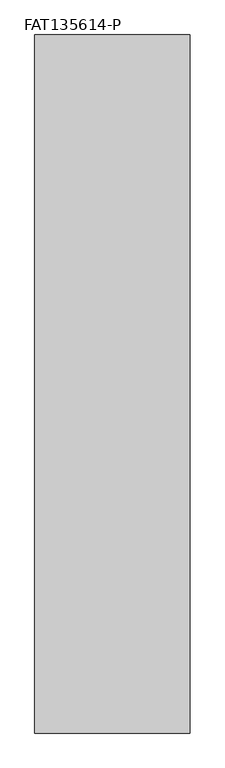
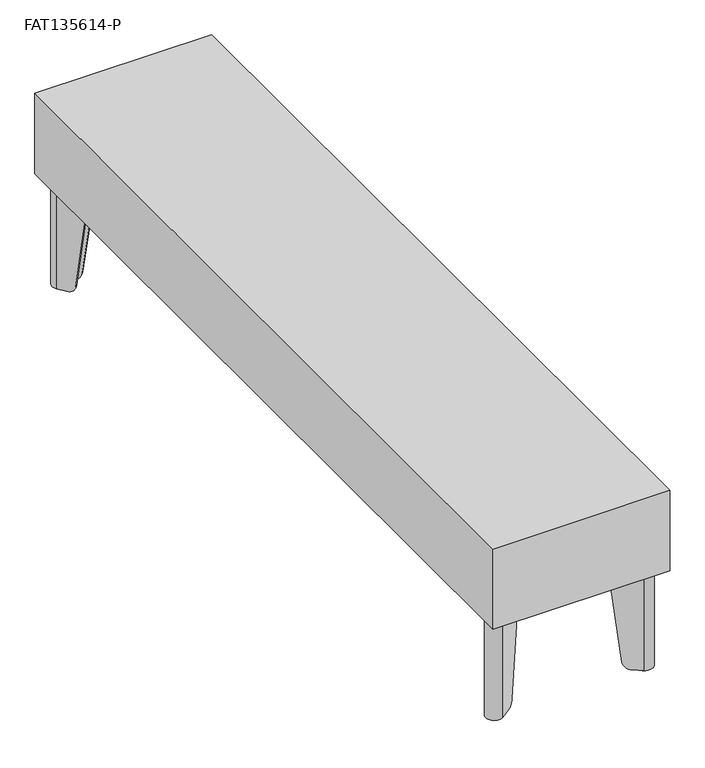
"""IFC4 building model written with IfcOpenShell, lengths in millimetres: furniture geometry, Stance_HC-Flora-Table_Straight : FAT135614-P."""

from ifc_helpers import new_model, si_unit, point, frame, frame_2d, origin, origin_with_axes, place, context, project, spatial, polyline, circle_curve, ellipse_curve, trimmed, segment, composite_curve, outline, extrude, source, transform, mapped, element, save
from ifc_brep_helpers import plane_surface, cylinder_surface, revolved_surface, advanced_brep


def fat135614_p_02217bb0(model_context):
    return source(origin(), model_context, "Body", "SolidModel", [
        advanced_brep(
        [(274.3401042, -102.8613619, 193.6877233), (306.2642107, -57.26919, 193.6877233), (285.6391871, -36.6441664, 193.6877233), (240.0470178, -68.568271, 193.6877233), (241.8906556, -71.2012484, 193.6877233), (287.4828248, -39.2771437, 193.6877233), (303.6312333, -55.4255523, 193.6877233), (271.7071268, -101.0177242, 193.6877233), (274.3401042, -102.8613619, 189.1419595), (303.6312333, -55.4255523, 3.1876992), (293.5105238, -69.8793673, 3.1876992), (284.3334277, -82.9855678, 17.1280233), (287.4828248, -39.2771437, 3.1876992), (259.9228092, -58.5749494, 17.1280233), (273.0290098, -49.3978533, 3.1876992), (240.0470178, -68.568271, 189.1419334), (285.6391871, -36.6441664, 3.1876992), (270.7211121, -47.0899556, 3.1876992), (257.6149115, -56.2670517, 17.1280233), (306.2642107, -57.26919, 3.1876992), (286.6413254, -85.2934656, 17.1280233), (295.8184215, -72.187265, 3.1876992)],
        [
            (0, 1),
            (1, 2, circle_curve(frame((294.1333442, -48.7750329, 193.6877233), z_axis=(0.0, 0.0, 1.0), x_axis=(-1.0, 0.0, 0.0)), 14.8090724)),
            (2, 3),
            (3, 4),
            (4, 5),
            (5, 6, circle_curve(frame((294.1333442, -48.7750329, 193.6877233), z_axis=(0.0, 0.0, -1.0), x_axis=(-1.0, 0.0, 0.0)), 11.5947965)),
            (6, 7),
            (7, 0),
            (7, 8),
            (8, 0),
            (6, 9),
            (9, 10),
            (10, 11, ellipse_curve(frame((293.5105238, -69.8793673, 19.0626992), z_axis=(-0.8191509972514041, 0.5735779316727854, 0.0), x_axis=(-0.5735779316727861, -0.8191509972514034, 0.0)), 16.1198923, 15.875)),
            (11, 7),
            (5, 12),
            (12, 9, circle_curve(frame((294.1333442, -48.7750329, 3.1876992), z_axis=(0.0, 0.0, -1.0), x_axis=(-1.0, 0.0, 0.0)), 11.5947965)),
            (4, 13),
            (13, 14, ellipse_curve(frame((273.0290098, -49.3978533, 19.0626992), z_axis=(0.5735779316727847, -0.8191509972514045, 0.0), x_axis=(0.8191509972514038, 0.5735779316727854, 0.0)), 16.1198923, 15.875)),
            (14, 12),
            (3, 15),
            (15, 4),
            (2, 16),
            (16, 17),
            (17, 18, ellipse_curve(frame((270.7211121, -47.0899556, 19.0626992), z_axis=(-0.5735779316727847, 0.8191509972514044, 0.0), x_axis=(0.8191509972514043, 0.573577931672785, 0.0)), 16.1198923, 15.875)),
            (18, 15),
            (1, 19),
            (19, 16, circle_curve(frame((294.1333442, -48.7750329, 3.1876992), z_axis=(0.0, 0.0, 1.0), x_axis=(-1.0, 0.0, 0.0)), 14.8090724)),
            (8, 20),
            (20, 21, ellipse_curve(frame((295.8184215, -72.187265, 19.0626992), z_axis=(0.8191509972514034, -0.5735779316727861, 0.0), x_axis=(-0.5735779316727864, -0.8191509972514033, 0.0)), 16.1198923, 15.875)),
            (21, 19),
            (18, 13),
            (11, 20),
            (21, 10),
            (14, 17),
        ],
        [
            plane_surface(frame((271.7071268, -101.0177242, 193.6877233), z_axis=(0.0, 0.0, 1.0000000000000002), x_axis=(-0.8191509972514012, 0.5735779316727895, 0.0))),
            plane_surface(frame((274.3401042, -102.8613619, 193.6877233), z_axis=(-0.5735779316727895, -0.8191509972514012, 0.0), x_axis=(0.0, 0.0, -1.0))),
            plane_surface(frame((271.7071268, -101.0177242, 193.6877233), z_axis=(-0.8191509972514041, 0.5735779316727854, 0.0), x_axis=(0.0, 0.0, -1.0))),
            revolved_surface(polyline([(282.53854770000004, -48.7750329, 3.1876992), (282.53854770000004, -48.7750329, 193.6877233)]), (294.1333442, -48.7750329, 0.0), (0.0, 0.0, -1.0)),
            plane_surface(frame((287.4828248, -39.2771437, 193.6877233), z_axis=(0.5735779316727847, -0.8191509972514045, 0.0), x_axis=(0.0, 0.0, -1.0))),
            plane_surface(frame((241.8906556, -71.2012484, 193.6877233), z_axis=(-0.8191509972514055, -0.5735779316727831, 0.0), x_axis=(0.0, 0.0, -1.0))),
            plane_surface(frame((240.0470178, -68.568271, 193.6877233), z_axis=(-0.5735779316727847, 0.8191509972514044, 0.0), x_axis=(0.0, 0.0, -1.0))),
            cylinder_surface(frame((294.1333442, -48.7750329, 0.0), z_axis=(0.0, 0.0, 1.0), x_axis=(-1.0, 0.0, 0.0)), 14.8090724),
            plane_surface(frame((306.2642107, -57.26919, 193.6877233), z_axis=(0.8191509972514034, -0.5735779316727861, 0.0), x_axis=(0.0, 0.0, -1.0))),
            plane_surface(frame((251.7311084, -50.3832485, 17.1280233), z_axis=(-0.7018361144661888, -0.7018361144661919, -0.12186934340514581), x_axis=(0.7071067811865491, -0.707106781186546, 0.0))),
            plane_surface(frame((284.2214639, -17.8928931, 3.1876992), z_axis=(0.0, 0.0, -1.0), x_axis=(0.707106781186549, -0.707106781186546, 0.0))),
            cylinder_surface(frame((303.6583998, -80.0272433, 19.0626992), z_axis=(0.7071067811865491, -0.707106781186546, 0.0), x_axis=(-0.707106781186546, -0.7071067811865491, 0.0)), 15.875),
        ],
        [
            (0, [[1, 2, 3, 4, 5, 6, 7, 8]]),
            (1, [[9, 10, -8]]),
            (2, [[11, 12, 13, 14, -7]]),
            (3, [[15, 16, -11, -6]]),
            (4, [[17, 18, 19, -15, -5]]),
            (5, [[20, 21, -4]]),
            (6, [[22, 23, 24, 25, -20, -3]]),
            (7, [[26, 27, -22, -2]]),
            (8, [[-10, 28, 29, 30, -26, -1]]),
            (9, [[-17, -21, -25, 31]]),
            (9, [[-28, -9, -14, 32]]),
            (10, [[-23, -27, -30, 33, -12, -16, -19, 34]]),
            (11, [[-13, -33, -29, -32]]),
            (11, [[-24, -34, -18, -31]]),
        ],
    ),
        extrude(outline(composite_curve([segment(trimmed(circle_curve(frame_2d((292.1, -50.8)), 11.1125), [point((303.2125, -50.8))], [point((280.9875, -50.8))], False, "CARTESIAN"), True, "CONTINUOUS"), segment(trimmed(circle_curve(frame_2d((292.1, -50.8)), 11.1125), [point((280.9875, -50.8))], [point((303.2125, -50.8))], False, "CARTESIAN"), True, "CONTINUOUS")], self_intersect=False)), origin_with_axes(), (0.0, 0.0, 1.0), 3.175),
        extrude(outline(composite_curve([segment(trimmed(circle_curve(frame_2d((295.4524523, -47.4559239)), 15.8749964), [point((294.3450687, -31.6195983))], [point((311.288778, -48.5633073))], False, "CARTESIAN"), True, "CONTINUOUS"), segment(polyline([(311.288778, -48.5633073), (304.2918062, -148.6247029), (274.4414324, -178.4750713), (190.4983323, -152.4100523), (164.4332978, -68.4669439), (194.2836699, -38.6165718), (294.3450687, -31.6195983)]), True, "CONTINUOUS")], self_intersect=False)), frame((0.0, 0.0, 193.6877233), z_axis=(0.0, 0.0, 1.0), x_axis=(1.0, 0.0, 0.0)), (0.0, 0.0, 1.0), 4.7751809),
        advanced_brep(
        [(274.3401042, -1344.9386381, 193.6877233), (271.7071268, -1346.7822758, 193.6877233), (303.6312333, -1392.3744477, 193.6877233), (287.4828248, -1408.5228563, 193.6877233), (241.8906556, -1376.5987516, 193.6877233), (240.0470178, -1379.231729, 193.6877233), (285.6391871, -1411.1558336, 193.6877233), (306.2642107, -1390.53081, 193.6877233), (274.3401042, -1344.9386381, 189.1419595), (284.3334277, -1364.8144322, 17.1280233), (293.5105238, -1377.9206327, 3.1876992), (303.6312333, -1392.3744477, 3.1876992), (287.4828248, -1408.5228563, 3.1876992), (273.0290098, -1398.4021467, 3.1876992), (259.9228092, -1389.2250506, 17.1280233), (240.0470178, -1379.231729, 189.1419334), (257.6149115, -1391.5329483, 17.1280233), (270.7211121, -1400.7100444, 3.1876992), (285.6391871, -1411.1558336, 3.1876992), (306.2642107, -1390.53081, 3.1876992), (295.8184215, -1375.612735, 3.1876992), (286.6413254, -1362.5065344, 17.1280233)],
        [
            (0, 1),
            (1, 2),
            (2, 3, circle_curve(frame((294.1333442, -1399.0249671, 193.6877233), z_axis=(0.0, 0.0, -1.0), x_axis=(-1.0, 0.0, 0.0)), 11.5947965)),
            (3, 4),
            (4, 5),
            (5, 6),
            (6, 7, circle_curve(frame((294.1333442, -1399.0249671, 193.6877233), z_axis=(0.0, 0.0, 1.0), x_axis=(-1.0, 0.0, 0.0)), 14.8090724)),
            (7, 0),
            (0, 8),
            (8, 1),
            (1, 9),
            (9, 10, ellipse_curve(frame((293.5105238, -1377.9206327, 19.0626992), z_axis=(-0.8191509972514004, -0.5735779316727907, 0.0), x_axis=(-0.5735779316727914, 0.8191509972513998, 0.0)), 16.1198923, 15.875)),
            (10, 11),
            (11, 2),
            (11, 12, circle_curve(frame((294.1333442, -1399.0249671, 3.1876992), z_axis=(0.0, 0.0, -1.0), x_axis=(-1.0, 0.0, 0.0)), 11.5947965)),
            (12, 3),
            (12, 13),
            (13, 14, ellipse_curve(frame((273.0290098, -1398.4021467, 19.0626992), z_axis=(0.5735779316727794, 0.8191509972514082, 0.0), x_axis=(0.8191509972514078, -0.5735779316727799, 0.0)), 16.1198923, 15.875)),
            (14, 4),
            (4, 15),
            (15, 5),
            (15, 16),
            (16, 17, ellipse_curve(frame((270.7211121, -1400.7100444, 19.0626992), z_axis=(-0.5735779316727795, -0.8191509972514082, 0.0), x_axis=(0.8191509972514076, -0.5735779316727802, 0.0)), 16.1198923, 15.875)),
            (17, 18),
            (18, 6),
            (18, 19, circle_curve(frame((294.1333442, -1399.0249671, 3.1876992), z_axis=(0.0, 0.0, 1.0), x_axis=(-1.0, 0.0, 0.0)), 14.8090724)),
            (19, 7),
            (19, 20),
            (20, 21, ellipse_curve(frame((295.8184215, -1375.612735, 19.0626992), z_axis=(0.8191509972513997, 0.5735779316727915, 0.0), x_axis=(-0.573577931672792, 0.8191509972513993, 0.0)), 16.1198923, 15.875)),
            (21, 8),
            (14, 16),
            (21, 9),
            (17, 13),
            (10, 20),
        ],
        [
            plane_surface(frame((271.7071268, -1346.7822758, 193.6877233), z_axis=(0.0, 0.0, 0.9999999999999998), x_axis=(-0.8191509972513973, -0.5735779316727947, 0.0))),
            plane_surface(frame((274.3401042, -1344.9386381, 193.6877233), z_axis=(-0.5735779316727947, 0.8191509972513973, 0.0), x_axis=(0.0, 0.0, -1.0))),
            plane_surface(frame((271.7071268, -1346.7822758, 193.6877233), z_axis=(-0.8191509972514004, -0.5735779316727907, 0.0), x_axis=(0.0, 0.0, -1.0))),
            revolved_surface(polyline([(282.53854770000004, -1399.0249671, 3.1876992), (282.53854770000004, -1399.0249671, 193.6877233)]), (294.1333442, -1399.0249671, 0.0), (0.0, 0.0, -1.0)),
            plane_surface(frame((287.4828248, -1408.5228563, 193.6877233), z_axis=(0.5735779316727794, 0.8191509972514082, 0.0), x_axis=(0.0, 0.0, -1.0))),
            plane_surface(frame((241.8906556, -1376.5987516, 193.6877233), z_axis=(-0.8191509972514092, 0.5735779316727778, 0.0), x_axis=(0.0, 0.0, -1.0))),
            plane_surface(frame((240.0470178, -1379.231729, 193.6877233), z_axis=(-0.5735779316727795, -0.8191509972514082, 0.0), x_axis=(0.0, 0.0, -1.0))),
            cylinder_surface(frame((294.1333442, -1399.0249671, 0.0), z_axis=(0.0, 0.0, 1.0), x_axis=(-1.0, 0.0, 0.0)), 14.8090724),
            plane_surface(frame((306.2642107, -1390.53081, 193.6877233), z_axis=(0.8191509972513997, 0.5735779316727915, 0.0), x_axis=(0.0, 0.0, -1.0))),
            plane_surface(frame((251.7311084, -1397.4167515, 17.1280233), z_axis=(-0.7018361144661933, 0.7018361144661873, -0.12186934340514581), x_axis=(0.7071067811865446, 0.7071067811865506, 0.0))),
            plane_surface(frame((284.2214639, -1429.9071069, 3.1876992), z_axis=(0.0, 0.0, -1.0), x_axis=(0.7071067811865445, 0.7071067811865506, 0.0))),
            cylinder_surface(frame((303.6583998, -1367.7727567, 19.0626992), z_axis=(0.7071067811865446, 0.7071067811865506, 0.0), x_axis=(-0.7071067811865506, 0.7071067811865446, 0.0)), 15.875),
        ],
        [
            (0, [[1, 2, 3, 4, 5, 6, 7, 8]]),
            (1, [[-1, 9, 10]]),
            (2, [[-2, 11, 12, 13, 14]]),
            (3, [[-3, -14, 15, 16]]),
            (4, [[-4, -16, 17, 18, 19]]),
            (5, [[-5, 20, 21]]),
            (6, [[-6, -21, 22, 23, 24, 25]]),
            (7, [[-7, -25, 26, 27]]),
            (8, [[-8, -27, 28, 29, 30, -9]]),
            (9, [[31, -22, -20, -19]]),
            (9, [[32, -11, -10, -30]]),
            (10, [[33, -17, -15, -13, 34, -28, -26, -24]]),
            (11, [[-31, -18, -33, -23]]),
            (11, [[-32, -29, -34, -12]]),
        ],
    ),
        extrude(outline(composite_curve([segment(trimmed(circle_curve(frame_2d((292.1, -1397.0)), 11.1125), [point((303.2125, -1397.0))], [point((280.9875, -1397.0))], False, "CARTESIAN"), True, "CONTINUOUS"), segment(trimmed(circle_curve(frame_2d((292.1, -1397.0)), 11.1125), [point((280.9875, -1397.0))], [point((303.2125, -1397.0))], False, "CARTESIAN"), True, "CONTINUOUS")], self_intersect=False)), origin_with_axes(), (0.0, 0.0, 1.0), 3.175),
        extrude(outline(composite_curve([segment(polyline([(294.3450687, -1416.1804017), (194.2836699, -1409.1834282), (164.4332978, -1379.3330561), (190.4983323, -1295.3899477), (274.4414324, -1269.3249287), (304.2918062, -1299.1752971), (311.288778, -1399.2366927)]), True, "CONTINUOUS"), segment(trimmed(circle_curve(frame_2d((295.4524523, -1400.3440761)), 15.8749964), [point((311.288778, -1399.2366927))], [point((294.3450687, -1416.1804017))], False, "CARTESIAN"), True, "CONTINUOUS")], self_intersect=False)), frame((0.0, 0.0, 193.6877233), z_axis=(0.0, 0.0, 1.0), x_axis=(1.0, 0.0, 0.0)), (0.0, 0.0, 1.0), 4.7751809),
        advanced_brep(
        [(43.1598958, -1344.9386381, 193.6877233), (11.2357893, -1390.53081, 193.6877233), (31.8608129, -1411.1558336, 193.6877233), (77.4529822, -1379.231729, 193.6877233), (75.6093444, -1376.5987516, 193.6877233), (30.0171752, -1408.5228563, 193.6877233), (13.8687667, -1392.3744477, 193.6877233), (45.7928732, -1346.7822758, 193.6877233), (43.1598958, -1344.9386381, 189.1419595), (13.8687667, -1392.3744477, 3.1876992), (23.9894762, -1377.9206327, 3.1876992), (33.1665723, -1364.8144322, 17.1280233), (30.0171752, -1408.5228563, 3.1876992), (57.5771908, -1389.2250506, 17.1280233), (44.4709902, -1398.4021467, 3.1876992), (77.4529822, -1379.231729, 189.1419334), (31.8608129, -1411.1558336, 3.1876992), (46.7788879, -1400.7100444, 3.1876992), (59.8850885, -1391.5329483, 17.1280233), (11.2357893, -1390.53081, 3.1876992), (30.8586746, -1362.5065344, 17.1280233), (21.6815785, -1375.612735, 3.1876992)],
        [
            (0, 1),
            (1, 2, circle_curve(frame((23.3666558, -1399.0249671, 193.6877233), z_axis=(0.0, 0.0, 1.0), x_axis=(1.0, 0.0, 0.0)), 14.8090724)),
            (2, 3),
            (3, 4),
            (4, 5),
            (5, 6, circle_curve(frame((23.3666558, -1399.0249671, 193.6877233), z_axis=(0.0, 0.0, -1.0), x_axis=(1.0, 0.0, 0.0)), 11.5947965)),
            (6, 7),
            (7, 0),
            (7, 8),
            (8, 0),
            (6, 9),
            (9, 10),
            (10, 11, ellipse_curve(frame((23.9894762, -1377.9206327, 19.0626992), z_axis=(0.8191509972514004, -0.5735779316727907, 0.0), x_axis=(0.5735779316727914, 0.8191509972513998, 0.0)), 16.1198923, 15.875)),
            (11, 7),
            (5, 12),
            (12, 9, circle_curve(frame((23.3666558, -1399.0249671, 3.1876992), z_axis=(0.0, 0.0, -1.0), x_axis=(1.0, 0.0, 0.0)), 11.5947965)),
            (4, 13),
            (13, 14, ellipse_curve(frame((44.4709902, -1398.4021467, 19.0626992), z_axis=(-0.5735779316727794, 0.8191509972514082, 0.0), x_axis=(-0.8191509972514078, -0.5735779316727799, 0.0)), 16.1198923, 15.875)),
            (14, 12),
            (3, 15),
            (15, 4),
            (2, 16),
            (16, 17),
            (17, 18, ellipse_curve(frame((46.7788879, -1400.7100444, 19.0626992), z_axis=(0.5735779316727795, -0.8191509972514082, 0.0), x_axis=(-0.8191509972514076, -0.5735779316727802, 0.0)), 16.1198923, 15.875)),
            (18, 15),
            (1, 19),
            (19, 16, circle_curve(frame((23.3666558, -1399.0249671, 3.1876992), z_axis=(0.0, 0.0, 1.0), x_axis=(1.0, 0.0, 0.0)), 14.8090724)),
            (8, 20),
            (20, 21, ellipse_curve(frame((21.6815785, -1375.612735, 19.0626992), z_axis=(-0.8191509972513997, 0.5735779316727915, 0.0), x_axis=(0.573577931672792, 0.8191509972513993, 0.0)), 16.1198923, 15.875)),
            (21, 19),
            (18, 13),
            (11, 20),
            (21, 10),
            (14, 17),
        ],
        [
            plane_surface(frame((45.7928732, -1346.7822758, 193.6877233), z_axis=(0.0, 0.0, 0.9999999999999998), x_axis=(0.8191509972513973, -0.5735779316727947, 0.0))),
            plane_surface(frame((43.1598958, -1344.9386381, 193.6877233), z_axis=(0.5735779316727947, 0.8191509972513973, 0.0), x_axis=(0.0, 0.0, -1.0))),
            plane_surface(frame((45.7928732, -1346.7822758, 193.6877233), z_axis=(0.8191509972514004, -0.5735779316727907, 0.0), x_axis=(0.0, 0.0, -1.0))),
            revolved_surface(polyline([(34.9614523, -1399.0249671, 3.1876992), (34.9614523, -1399.0249671, 193.6877233)]), (23.3666558, -1399.0249671, 0.0), (0.0, 0.0, -1.0)),
            plane_surface(frame((30.0171752, -1408.5228563, 193.6877233), z_axis=(-0.5735779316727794, 0.8191509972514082, 0.0), x_axis=(0.0, 0.0, -1.0))),
            plane_surface(frame((75.6093444, -1376.5987516, 193.6877233), z_axis=(0.8191509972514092, 0.5735779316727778, 0.0), x_axis=(0.0, 0.0, -1.0))),
            plane_surface(frame((77.4529822, -1379.231729, 193.6877233), z_axis=(0.5735779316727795, -0.8191509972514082, 0.0), x_axis=(0.0, 0.0, -1.0))),
            cylinder_surface(frame((23.3666558, -1399.0249671, 0.0), z_axis=(0.0, 0.0, 1.0), x_axis=(1.0, 0.0, 0.0)), 14.8090724),
            plane_surface(frame((11.2357893, -1390.53081, 193.6877233), z_axis=(-0.8191509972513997, 0.5735779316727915, 0.0), x_axis=(0.0, 0.0, -1.0))),
            plane_surface(frame((65.7688916, -1397.4167515, 17.1280233), z_axis=(0.7018361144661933, 0.7018361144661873, -0.12186934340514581), x_axis=(-0.7071067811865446, 0.7071067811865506, 0.0))),
            plane_surface(frame((33.2785361, -1429.9071069, 3.1876992), z_axis=(0.0, 0.0, -1.0), x_axis=(-0.7071067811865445, 0.7071067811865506, 0.0))),
            cylinder_surface(frame((13.8416002, -1367.7727567, 19.0626992), z_axis=(-0.7071067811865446, 0.7071067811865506, 0.0), x_axis=(0.7071067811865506, 0.7071067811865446, 0.0)), 15.875),
        ],
        [
            (0, [[1, 2, 3, 4, 5, 6, 7, 8]]),
            (1, [[9, 10, -8]]),
            (2, [[11, 12, 13, 14, -7]]),
            (3, [[15, 16, -11, -6]]),
            (4, [[17, 18, 19, -15, -5]]),
            (5, [[20, 21, -4]]),
            (6, [[22, 23, 24, 25, -20, -3]]),
            (7, [[26, 27, -22, -2]]),
            (8, [[-10, 28, 29, 30, -26, -1]]),
            (9, [[-17, -21, -25, 31]]),
            (9, [[-28, -9, -14, 32]]),
            (10, [[-23, -27, -30, 33, -12, -16, -19, 34]]),
            (11, [[-13, -33, -29, -32]]),
            (11, [[-24, -34, -18, -31]]),
        ],
    ),
        extrude(outline(composite_curve([segment(trimmed(circle_curve(frame_2d((25.4, -1397.0)), 11.1125), [point((14.2875, -1397.0))], [point((36.5125, -1397.0))], False, "CARTESIAN"), True, "CONTINUOUS"), segment(trimmed(circle_curve(frame_2d((25.4, -1397.0)), 11.1125), [point((36.5125, -1397.0))], [point((14.2875, -1397.0))], False, "CARTESIAN"), True, "CONTINUOUS")], self_intersect=False)), origin_with_axes(), (0.0, 0.0, 1.0), 3.175),
        extrude(outline(composite_curve([segment(trimmed(circle_curve(frame_2d((22.0475477, -1400.3440761)), 15.8749964), [point((23.1549313, -1416.1804017))], [point((6.211222, -1399.2366927))], False, "CARTESIAN"), True, "CONTINUOUS"), segment(polyline([(6.211222, -1399.2366927), (13.2081938, -1299.1752971), (43.0585676, -1269.3249287), (127.0016677, -1295.3899477), (153.0667022, -1379.3330561), (123.2163301, -1409.1834282), (23.1549313, -1416.1804017)]), True, "CONTINUOUS")], self_intersect=False)), frame((0.0, 0.0, 193.6877233), z_axis=(0.0, 0.0, 1.0), x_axis=(1.0, 0.0, 0.0)), (0.0, 0.0, 1.0), 4.7751809),
        advanced_brep(
        [(43.1598958, -102.8613619, 193.6877233), (45.7928732, -101.0177242, 193.6877233), (13.8687667, -55.4255523, 193.6877233), (30.0171752, -39.2771437, 193.6877233), (75.6093444, -71.2012484, 193.6877233), (77.4529822, -68.568271, 193.6877233), (31.8608129, -36.6441664, 193.6877233), (11.2357893, -57.26919, 193.6877233), (43.1598958, -102.8613619, 189.1419595), (33.1665723, -82.9855678, 17.1280233), (23.9894762, -69.8793673, 3.1876992), (13.8687667, -55.4255523, 3.1876992), (30.0171752, -39.2771437, 3.1876992), (44.4709902, -49.3978533, 3.1876992), (57.5771908, -58.5749494, 17.1280233), (77.4529822, -68.568271, 189.1419334), (59.8850885, -56.2670517, 17.1280233), (46.7788879, -47.0899556, 3.1876992), (31.8608129, -36.6441664, 3.1876992), (11.2357893, -57.26919, 3.1876992), (21.6815785, -72.187265, 3.1876992), (30.8586746, -85.2934656, 17.1280233)],
        [
            (0, 1),
            (1, 2),
            (2, 3, circle_curve(frame((23.3666558, -48.7750329, 193.6877233), z_axis=(0.0, 0.0, -1.0), x_axis=(1.0, 0.0, 0.0)), 11.5947965)),
            (3, 4),
            (4, 5),
            (5, 6),
            (6, 7, circle_curve(frame((23.3666558, -48.7750329, 193.6877233), z_axis=(0.0, 0.0, 1.0), x_axis=(1.0, 0.0, 0.0)), 14.8090724)),
            (7, 0),
            (0, 8),
            (8, 1),
            (1, 9),
            (9, 10, ellipse_curve(frame((23.9894762, -69.8793673, 19.0626992), z_axis=(0.8191509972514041, 0.5735779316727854, 0.0), x_axis=(0.5735779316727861, -0.8191509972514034, 0.0)), 16.1198923, 15.875)),
            (10, 11),
            (11, 2),
            (11, 12, circle_curve(frame((23.3666558, -48.7750329, 3.1876992), z_axis=(0.0, 0.0, -1.0), x_axis=(1.0, 0.0, 0.0)), 11.5947965)),
            (12, 3),
            (12, 13),
            (13, 14, ellipse_curve(frame((44.4709902, -49.3978533, 19.0626992), z_axis=(-0.5735779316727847, -0.8191509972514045, 0.0), x_axis=(-0.8191509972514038, 0.5735779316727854, 0.0)), 16.1198923, 15.875)),
            (14, 4),
            (4, 15),
            (15, 5),
            (15, 16),
            (16, 17, ellipse_curve(frame((46.7788879, -47.0899556, 19.0626992), z_axis=(0.5735779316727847, 0.8191509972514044, 0.0), x_axis=(-0.8191509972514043, 0.573577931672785, 0.0)), 16.1198923, 15.875)),
            (17, 18),
            (18, 6),
            (18, 19, circle_curve(frame((23.3666558, -48.7750329, 3.1876992), z_axis=(0.0, 0.0, 1.0), x_axis=(1.0, 0.0, 0.0)), 14.8090724)),
            (19, 7),
            (19, 20),
            (20, 21, ellipse_curve(frame((21.6815785, -72.187265, 19.0626992), z_axis=(-0.8191509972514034, -0.5735779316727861, 0.0), x_axis=(0.5735779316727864, -0.8191509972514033, 0.0)), 16.1198923, 15.875)),
            (21, 8),
            (14, 16),
            (21, 9),
            (17, 13),
            (10, 20),
        ],
        [
            plane_surface(frame((45.7928732, -101.0177242, 193.6877233), z_axis=(0.0, 0.0, 1.0000000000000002), x_axis=(0.8191509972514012, 0.5735779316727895, 0.0))),
            plane_surface(frame((43.1598958, -102.8613619, 193.6877233), z_axis=(0.5735779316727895, -0.8191509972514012, 0.0), x_axis=(0.0, 0.0, -1.0))),
            plane_surface(frame((45.7928732, -101.0177242, 193.6877233), z_axis=(0.8191509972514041, 0.5735779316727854, 0.0), x_axis=(0.0, 0.0, -1.0))),
            revolved_surface(polyline([(34.9614523, -48.7750329, 3.1876992), (34.9614523, -48.7750329, 193.6877233)]), (23.3666558, -48.7750329, 0.0), (0.0, 0.0, -1.0)),
            plane_surface(frame((30.0171752, -39.2771437, 193.6877233), z_axis=(-0.5735779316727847, -0.8191509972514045, 0.0), x_axis=(0.0, 0.0, -1.0))),
            plane_surface(frame((75.6093444, -71.2012484, 193.6877233), z_axis=(0.8191509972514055, -0.5735779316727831, 0.0), x_axis=(0.0, 0.0, -1.0))),
            plane_surface(frame((77.4529822, -68.568271, 193.6877233), z_axis=(0.5735779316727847, 0.8191509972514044, 0.0), x_axis=(0.0, 0.0, -1.0))),
            cylinder_surface(frame((23.3666558, -48.7750329, 0.0), z_axis=(0.0, 0.0, 1.0), x_axis=(1.0, 0.0, 0.0)), 14.8090724),
            plane_surface(frame((11.2357893, -57.26919, 193.6877233), z_axis=(-0.8191509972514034, -0.5735779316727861, 0.0), x_axis=(0.0, 0.0, -1.0))),
            plane_surface(frame((65.7688916, -50.3832485, 17.1280233), z_axis=(0.7018361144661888, -0.7018361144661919, -0.12186934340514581), x_axis=(-0.7071067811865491, -0.707106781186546, 0.0))),
            plane_surface(frame((33.2785361, -17.8928931, 3.1876992), z_axis=(0.0, 0.0, -1.0), x_axis=(-0.707106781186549, -0.707106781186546, 0.0))),
            cylinder_surface(frame((13.8416002, -80.0272433, 19.0626992), z_axis=(-0.7071067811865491, -0.707106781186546, 0.0), x_axis=(0.707106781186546, -0.7071067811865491, 0.0)), 15.875),
        ],
        [
            (0, [[1, 2, 3, 4, 5, 6, 7, 8]]),
            (1, [[-1, 9, 10]]),
            (2, [[-2, 11, 12, 13, 14]]),
            (3, [[-3, -14, 15, 16]]),
            (4, [[-4, -16, 17, 18, 19]]),
            (5, [[-5, 20, 21]]),
            (6, [[-6, -21, 22, 23, 24, 25]]),
            (7, [[-7, -25, 26, 27]]),
            (8, [[-8, -27, 28, 29, 30, -9]]),
            (9, [[31, -22, -20, -19]]),
            (9, [[32, -11, -10, -30]]),
            (10, [[33, -17, -15, -13, 34, -28, -26, -24]]),
            (11, [[-31, -18, -33, -23]]),
            (11, [[-32, -29, -34, -12]]),
        ],
    ),
        extrude(outline(composite_curve([segment(trimmed(circle_curve(frame_2d((25.4, -50.8)), 11.1125), [point((14.2875, -50.8))], [point((36.5125, -50.8))], False, "CARTESIAN"), True, "CONTINUOUS"), segment(trimmed(circle_curve(frame_2d((25.4, -50.8)), 11.1125), [point((36.5125, -50.8))], [point((14.2875, -50.8))], False, "CARTESIAN"), True, "CONTINUOUS")], self_intersect=False)), origin_with_axes(), (0.0, 0.0, 1.0), 3.175),
        extrude(outline(composite_curve([segment(polyline([(23.1549313, -31.6195983), (123.2163301, -38.6165718), (153.0667022, -68.4669439), (127.0016677, -152.4100523), (43.0585676, -178.4750713), (13.2081938, -148.6247029), (6.211222, -48.5633073)]), True, "CONTINUOUS"), segment(trimmed(circle_curve(frame_2d((22.0475477, -47.4559239)), 15.8749964), [point((6.211222, -48.5633073))], [point((23.1549313, -31.6195983))], False, "CARTESIAN"), True, "CONTINUOUS")], self_intersect=False)), frame((0.0, 0.0, 193.6877233), z_axis=(0.0, 0.0, 1.0), x_axis=(1.0, 0.0, 0.0)), (0.0, 0.0, 1.0), 4.7751809),
        extrude(outline(polyline([(317.5, -11.1125), (317.5, -1436.6875), (0.0, -1436.6875), (0.0, -11.1125), (317.5, -11.1125)])), frame((0.0, 0.0, 196.85), z_axis=(0.0, 0.0, 1.0), x_axis=(1.0, 0.0, 0.0)), (0.0, 0.0, 1.0), 152.399991),
    ])


if __name__ == "__main__":
    model = new_model("IFC4")
    model_context = context("Model", 3, world=origin())
    ifc_project = project(units=[si_unit("LENGTHUNIT", "METRE", prefix="MILLI")], contexts=[model_context])
    site = spatial("IfcSite", under=ifc_project)
    building = spatial("IfcBuilding", under=site)
    placement = place(None, origin())
    fat135614_p_shape = fat135614_p_02217bb0(model_context)
    element("IfcFurniture", 1, ObjectType="Stance_HC-Flora-Table_Straight : FAT135614-P", at=placement, inside=building, context=model_context, shape_type="MappedRepresentation", body=[
        mapped(fat135614_p_shape, transform((0.0, 0.0, 0.0), x_axis=(1.0, 0.0, 0.0), y_axis=(0.0, 1.0, 0.0), z_axis=(0.0, 0.0, 1.0))),
    ])
    save(model, "model.ifc")
